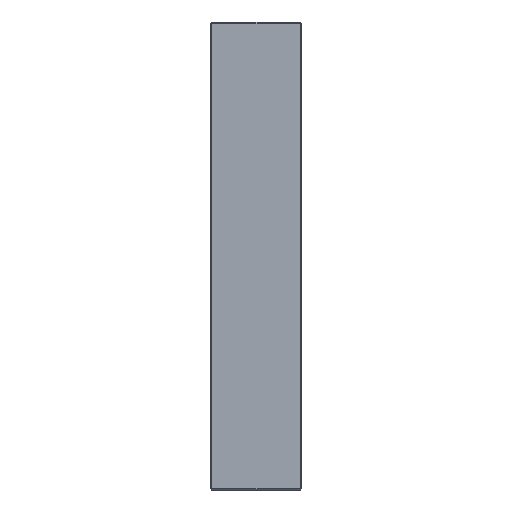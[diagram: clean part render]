
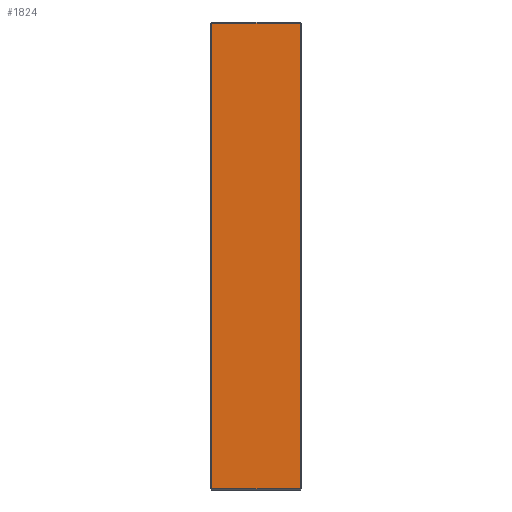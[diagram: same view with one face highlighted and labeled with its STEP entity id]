
A CAD part, left-side view. The second image highlights one B-rep face of the part: STEP entity #1824.
In plain terms, the highlighted planar face has unit normal (-1, 0, 0).
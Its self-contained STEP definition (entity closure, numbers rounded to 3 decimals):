
#95 = ORIENTED_EDGE ( 'NONE', *, *, #728, .T. ) ;
#192 = CARTESIAN_POINT ( 'NONE',  ( -223., 1., -222. ) ) ;
#208 = EDGE_LOOP ( 'NONE', ( #1515, #95, #1017, #428 ) ) ;
#292 = VECTOR ( 'NONE', #1120, 1000. ) ;
#315 = LINE ( 'NONE', #1554, #1053 ) ;
#377 = VERTEX_POINT ( 'NONE', #192 ) ;
#386 = FACE_OUTER_BOUND ( 'NONE', #208, .T. ) ;
#396 = CARTESIAN_POINT ( 'NONE',  ( -223., 85., 222. ) ) ;
#428 = ORIENTED_EDGE ( 'NONE', *, *, #1737, .T. ) ;
#560 = VERTEX_POINT ( 'NONE', #1912 ) ;
#612 = VERTEX_POINT ( 'NONE', #660 ) ;
#660 = CARTESIAN_POINT ( 'NONE',  ( -223., 1., 222. ) ) ;
#728 = EDGE_CURVE ( 'NONE', #1387, #560, #1482, .T. ) ;
#744 = DIRECTION ( 'NONE',  ( 0., 1., 0. ) ) ;
#751 = CARTESIAN_POINT ( 'NONE',  ( -223., 1., 223. ) ) ;
#764 = LINE ( 'NONE', #751, #1945 ) ;
#765 = DIRECTION ( 'NONE',  ( 0., 0., 1. ) ) ;
#1017 = ORIENTED_EDGE ( 'NONE', *, *, #1765, .T. ) ;
#1053 = VECTOR ( 'NONE', #744, 1000. ) ;
#1073 = LINE ( 'NONE', #1077, #1853 ) ;
#1077 = CARTESIAN_POINT ( 'NONE',  ( -223., 86., -222. ) ) ;
#1120 = DIRECTION ( 'NONE',  ( 0., 0., -1. ) ) ;
#1128 = CARTESIAN_POINT ( 'NONE',  ( -223., 85., 223. ) ) ;
#1182 = DIRECTION ( 'NONE',  ( 0., -1., 0. ) ) ;
#1282 = AXIS2_PLACEMENT_3D ( 'NONE', #1660, #1684, #1694 ) ;
#1387 = VERTEX_POINT ( 'NONE', #396 ) ;
#1482 = LINE ( 'NONE', #1128, #292 ) ;
#1514 = PLANE ( 'NONE',  #1282 ) ;
#1515 = ORIENTED_EDGE ( 'NONE', *, *, #1538, .T. ) ;
#1538 = EDGE_CURVE ( 'NONE', #612, #1387, #315, .T. ) ;
#1554 = CARTESIAN_POINT ( 'NONE',  ( -223., 86., 222. ) ) ;
#1660 = CARTESIAN_POINT ( 'NONE',  ( -223., 86., 223. ) ) ;
#1684 = DIRECTION ( 'NONE',  ( 1., 0., 0. ) ) ;
#1694 = DIRECTION ( 'NONE',  ( 0., 0., -1. ) ) ;
#1737 = EDGE_CURVE ( 'NONE', #377, #612, #764, .T. ) ;
#1765 = EDGE_CURVE ( 'NONE', #560, #377, #1073, .T. ) ;
#1824 = ADVANCED_FACE ( 'NONE', ( #386 ), #1514, .F. ) ;
#1853 = VECTOR ( 'NONE', #1182, 1000. ) ;
#1912 = CARTESIAN_POINT ( 'NONE',  ( -223., 85., -222. ) ) ;
#1945 = VECTOR ( 'NONE', #765, 1000. ) ;
